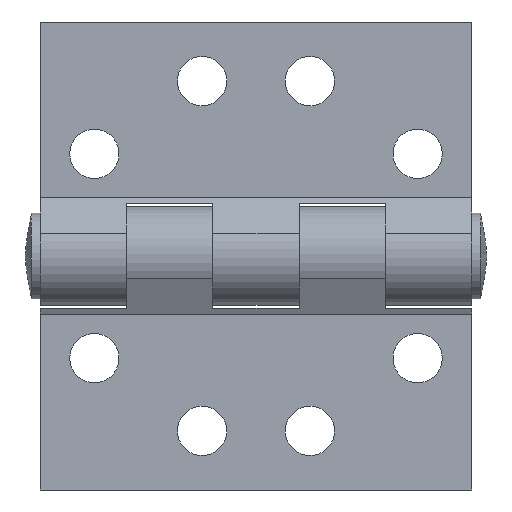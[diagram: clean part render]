
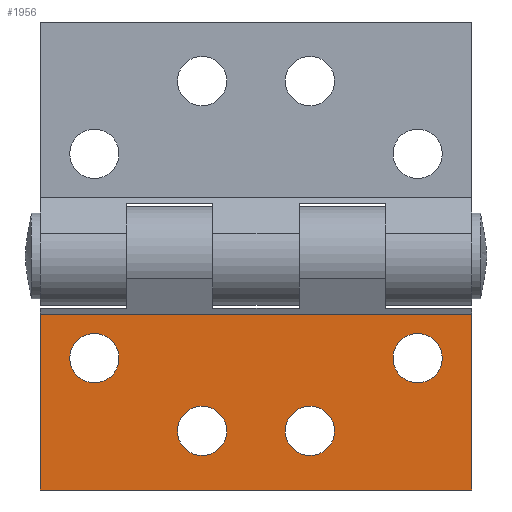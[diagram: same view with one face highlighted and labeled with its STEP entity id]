
A CAD part, front view. The second image highlights one B-rep face of the part: STEP entity #1956.
In plain terms, the highlighted planar face has unit normal (0, -1, 0).
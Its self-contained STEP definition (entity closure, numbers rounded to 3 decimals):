
#13 = CARTESIAN_POINT ( 'NONE',  ( 17.5, -1.2, -14.74 ) ) ;
#117 = VERTEX_POINT ( 'NONE', #982 ) ;
#118 = DIRECTION ( 'NONE',  ( 0., 0., -1. ) ) ;
#147 = ORIENTED_EDGE ( 'NONE', *, *, #3406, .F. ) ;
#163 = EDGE_LOOP ( 'NONE', ( #1408, #2001 ) ) ;
#179 = CIRCLE ( 'NONE', #477, 2. ) ;
#191 = ORIENTED_EDGE ( 'NONE', *, *, #1287, .F. ) ;
#319 = VERTEX_POINT ( 'NONE', #810 ) ;
#439 = PLANE ( 'NONE',  #1907 ) ;
#452 = EDGE_CURVE ( 'NONE', #2911, #3193, #179, .T. ) ;
#467 = CIRCLE ( 'NONE', #563, 2. ) ;
#477 = AXIS2_PLACEMENT_3D ( 'NONE', #2100, #2110, #892 ) ;
#515 = CARTESIAN_POINT ( 'NONE',  ( -4.375, -1.2, -7.94 ) ) ;
#540 = ORIENTED_EDGE ( 'NONE', *, *, #3258, .F. ) ;
#563 = AXIS2_PLACEMENT_3D ( 'NONE', #1546, #3290, #2470 ) ;
#647 = DIRECTION ( 'NONE',  ( 0., 0., -1. ) ) ;
#730 = CARTESIAN_POINT ( 'NONE',  ( 17.5, -1.2, -14.74 ) ) ;
#810 = CARTESIAN_POINT ( 'NONE',  ( 4.375, -1.2, -11.94 ) ) ;
#838 = CARTESIAN_POINT ( 'NONE',  ( -13.125, -1.2, -6.04 ) ) ;
#892 = DIRECTION ( 'NONE',  ( 0., 0., -1. ) ) ;
#899 = DIRECTION ( 'NONE',  ( 0., 0., 1. ) ) ;
#911 = LINE ( 'NONE', #13, #3782 ) ;
#937 = CARTESIAN_POINT ( 'NONE',  ( 13.125, -1.2, -6.04 ) ) ;
#948 = FACE_OUTER_BOUND ( 'NONE', #1020, .T. ) ;
#970 = VECTOR ( 'NONE', #2841, 1000. ) ;
#982 = CARTESIAN_POINT ( 'NONE',  ( -17.5, -1.2, -0.461 ) ) ;
#1002 = VERTEX_POINT ( 'NONE', #1954 ) ;
#1013 = CARTESIAN_POINT ( 'NONE',  ( 17.5, -1.2, -0.461 ) ) ;
#1020 = EDGE_LOOP ( 'NONE', ( #2077, #2928, #3021, #3379 ) ) ;
#1042 = CARTESIAN_POINT ( 'NONE',  ( 4.375, -1.2, -9.94 ) ) ;
#1097 = EDGE_CURVE ( 'NONE', #2985, #1002, #3282, .T. ) ;
#1147 = CARTESIAN_POINT ( 'NONE',  ( -4.375, -1.2, -11.94 ) ) ;
#1287 = EDGE_CURVE ( 'NONE', #319, #3154, #1818, .T. ) ;
#1332 = DIRECTION ( 'NONE',  ( 0., -1., 0. ) ) ;
#1408 = ORIENTED_EDGE ( 'NONE', *, *, #452, .F. ) ;
#1412 = VERTEX_POINT ( 'NONE', #1013 ) ;
#1463 = AXIS2_PLACEMENT_3D ( 'NONE', #1042, #3077, #118 ) ;
#1469 = CIRCLE ( 'NONE', #3388, 2. ) ;
#1498 = VERTEX_POINT ( 'NONE', #515 ) ;
#1505 = EDGE_CURVE ( 'NONE', #1002, #117, #2922, .T. ) ;
#1546 = CARTESIAN_POINT ( 'NONE',  ( 4.375, -1.2, -9.94 ) ) ;
#1564 = FACE_BOUND ( 'NONE', #163, .T. ) ;
#1591 = VECTOR ( 'NONE', #2327, 1000. ) ;
#1662 = DIRECTION ( 'NONE',  ( 0., -1., 0. ) ) ;
#1712 = EDGE_LOOP ( 'NONE', ( #2915, #191 ) ) ;
#1756 = FACE_BOUND ( 'NONE', #1928, .T. ) ;
#1761 = EDGE_CURVE ( 'NONE', #3154, #319, #467, .T. ) ;
#1771 = CARTESIAN_POINT ( 'NONE',  ( -17.5, -1.2, -14.74 ) ) ;
#1794 = DIRECTION ( 'NONE',  ( 0., -1., 0. ) ) ;
#1818 = CIRCLE ( 'NONE', #1463, 2. ) ;
#1907 = AXIS2_PLACEMENT_3D ( 'NONE', #730, #2813, #3071 ) ;
#1919 = EDGE_CURVE ( 'NONE', #3193, #2911, #1469, .T. ) ;
#1928 = EDGE_LOOP ( 'NONE', ( #3066, #3129 ) ) ;
#1954 = CARTESIAN_POINT ( 'NONE',  ( -17.5, -1.2, -14.74 ) ) ;
#1956 = ADVANCED_FACE ( 'NONE', ( #1756, #2349, #1564, #3130, #948 ), #439, .T. ) ;
#2001 = ORIENTED_EDGE ( 'NONE', *, *, #1919, .F. ) ;
#2004 = AXIS2_PLACEMENT_3D ( 'NONE', #2769, #2748, #3327 ) ;
#2059 = EDGE_LOOP ( 'NONE', ( #540, #147 ) ) ;
#2077 = ORIENTED_EDGE ( 'NONE', *, *, #1505, .F. ) ;
#2100 = CARTESIAN_POINT ( 'NONE',  ( 13.125, -1.2, -4.04 ) ) ;
#2110 = DIRECTION ( 'NONE',  ( 0., -1., 0. ) ) ;
#2223 = CIRCLE ( 'NONE', #2543, 2. ) ;
#2228 = CARTESIAN_POINT ( 'NONE',  ( -13.125, -1.2, -4.04 ) ) ;
#2271 = LINE ( 'NONE', #2438, #3457 ) ;
#2308 = CARTESIAN_POINT ( 'NONE',  ( 13.125, -1.2, -2.04 ) ) ;
#2327 = DIRECTION ( 'NONE',  ( 0., 0., 1. ) ) ;
#2349 = FACE_BOUND ( 'NONE', #1712, .T. ) ;
#2350 = CARTESIAN_POINT ( 'NONE',  ( -13.125, -1.2, -2.04 ) ) ;
#2353 = CIRCLE ( 'NONE', #2789, 2. ) ;
#2429 = DIRECTION ( 'NONE',  ( -1., 0., 0. ) ) ;
#2438 = CARTESIAN_POINT ( 'NONE',  ( 17.5, -1.2, -0.461 ) ) ;
#2470 = DIRECTION ( 'NONE',  ( 0., 0., -1. ) ) ;
#2486 = CARTESIAN_POINT ( 'NONE',  ( 13.125, -1.2, -4.04 ) ) ;
#2540 = VERTEX_POINT ( 'NONE', #1147 ) ;
#2543 = AXIS2_PLACEMENT_3D ( 'NONE', #2228, #1662, #3418 ) ;
#2616 = EDGE_CURVE ( 'NONE', #2985, #1412, #911, .T. ) ;
#2675 = EDGE_CURVE ( 'NONE', #2540, #1498, #3737, .T. ) ;
#2748 = DIRECTION ( 'NONE',  ( 0., -1., 0. ) ) ;
#2769 = CARTESIAN_POINT ( 'NONE',  ( -4.375, -1.2, -9.94 ) ) ;
#2789 = AXIS2_PLACEMENT_3D ( 'NONE', #3644, #3036, #647 ) ;
#2813 = DIRECTION ( 'NONE',  ( 0., -1., 0. ) ) ;
#2841 = DIRECTION ( 'NONE',  ( -1., 0., 0. ) ) ;
#2911 = VERTEX_POINT ( 'NONE', #2308 ) ;
#2915 = ORIENTED_EDGE ( 'NONE', *, *, #1761, .F. ) ;
#2922 = LINE ( 'NONE', #1771, #1591 ) ;
#2928 = ORIENTED_EDGE ( 'NONE', *, *, #1097, .F. ) ;
#2985 = VERTEX_POINT ( 'NONE', #3582 ) ;
#3009 = CARTESIAN_POINT ( 'NONE',  ( 4.375, -1.2, -7.94 ) ) ;
#3021 = ORIENTED_EDGE ( 'NONE', *, *, #2616, .T. ) ;
#3036 = DIRECTION ( 'NONE',  ( 0., -1., 0. ) ) ;
#3066 = ORIENTED_EDGE ( 'NONE', *, *, #3190, .F. ) ;
#3071 = DIRECTION ( 'NONE',  ( 0., 0., -1. ) ) ;
#3077 = DIRECTION ( 'NONE',  ( 0., -1., 0. ) ) ;
#3118 = CARTESIAN_POINT ( 'NONE',  ( 17.5, -1.2, -14.74 ) ) ;
#3129 = ORIENTED_EDGE ( 'NONE', *, *, #2675, .F. ) ;
#3130 = FACE_BOUND ( 'NONE', #2059, .T. ) ;
#3154 = VERTEX_POINT ( 'NONE', #3009 ) ;
#3190 = EDGE_CURVE ( 'NONE', #1498, #2540, #3266, .T. ) ;
#3193 = VERTEX_POINT ( 'NONE', #937 ) ;
#3253 = EDGE_CURVE ( 'NONE', #1412, #117, #2271, .T. ) ;
#3258 = EDGE_CURVE ( 'NONE', #3793, #3657, #2353, .T. ) ;
#3266 = CIRCLE ( 'NONE', #2004, 2. ) ;
#3282 = LINE ( 'NONE', #3118, #970 ) ;
#3290 = DIRECTION ( 'NONE',  ( 0., -1., 0. ) ) ;
#3327 = DIRECTION ( 'NONE',  ( 0., 0., -1. ) ) ;
#3346 = AXIS2_PLACEMENT_3D ( 'NONE', #3536, #1794, #3834 ) ;
#3360 = DIRECTION ( 'NONE',  ( 0., 0., -1. ) ) ;
#3379 = ORIENTED_EDGE ( 'NONE', *, *, #3253, .T. ) ;
#3388 = AXIS2_PLACEMENT_3D ( 'NONE', #2486, #1332, #3360 ) ;
#3406 = EDGE_CURVE ( 'NONE', #3657, #3793, #2223, .T. ) ;
#3418 = DIRECTION ( 'NONE',  ( 0., 0., -1. ) ) ;
#3457 = VECTOR ( 'NONE', #2429, 1000. ) ;
#3536 = CARTESIAN_POINT ( 'NONE',  ( -4.375, -1.2, -9.94 ) ) ;
#3582 = CARTESIAN_POINT ( 'NONE',  ( 17.5, -1.2, -14.74 ) ) ;
#3644 = CARTESIAN_POINT ( 'NONE',  ( -13.125, -1.2, -4.04 ) ) ;
#3657 = VERTEX_POINT ( 'NONE', #838 ) ;
#3737 = CIRCLE ( 'NONE', #3346, 2. ) ;
#3782 = VECTOR ( 'NONE', #899, 1000. ) ;
#3793 = VERTEX_POINT ( 'NONE', #2350 ) ;
#3834 = DIRECTION ( 'NONE',  ( 0., 0., -1. ) ) ;
